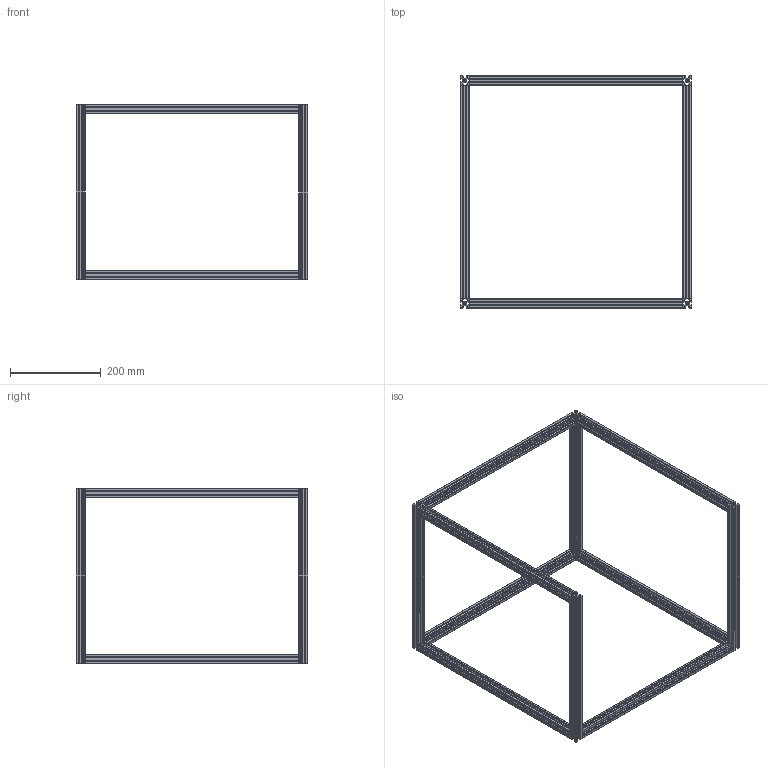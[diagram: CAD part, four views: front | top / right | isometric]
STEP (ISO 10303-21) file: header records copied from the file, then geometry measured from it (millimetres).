
FILE_DESCRIPTION(/* description */ (''),/* implementation_level */ '2;1');
FILE_NAME(/* name */ 'Frame v42.step',/* time_stamp */ '2024-06-21T14:38:36+07:00',/* author */ (''),/* organization */ (''),/* preprocessor_version */ 'ST-DEVELOPER v20',/* originating_system */ 'Autodesk Translation Framework v13.14.0.145',/* authorisation */ '');
FILE_SCHEMA (('AUTOMOTIVE_DESIGN { 1 0 10303 214 3 1 1 }'));
Length unit declared in the file: millimetre
Products named in the file (2): Frame; Frame_1
Assembly tree (1 placements, depth 2):
  Frame
    Frame_1
Bounding box: 510 x 510 x 385 mm (x, y, z)
Volume: 829471.2 mm3; surface area: 775477.7 mm2
Topology: 11 solids, 11 shells, 649 faces, 1881 edges, 1254 vertices
Faces by surface type: plane 594, cylinder 55
Full cylindrical faces by diameter (mm): 4.2 x11
Entity records: 21119 total; most frequent: CARTESIAN_POINT 3787, ORIENTED_EDGE 3762, DIRECTION 3295, EDGE_CURVE 1881, LINE 1771, VECTOR 1771, VERTEX_POINT 1254, AXIS2_PLACEMENT_3D 762
